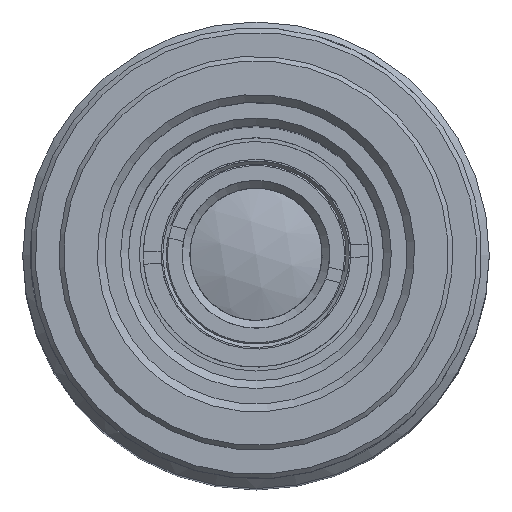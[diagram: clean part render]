
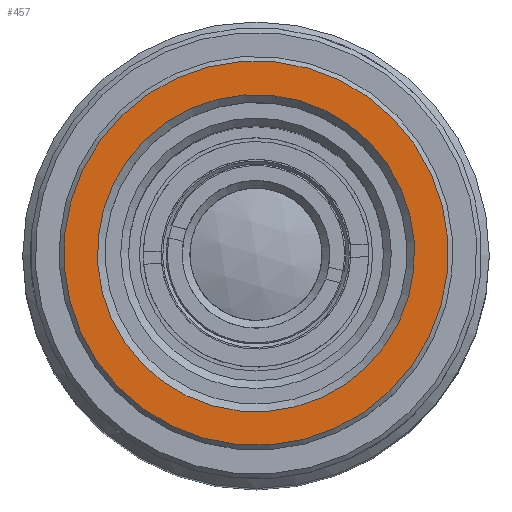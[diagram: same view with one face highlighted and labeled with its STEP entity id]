
A CAD part, top view. The second image highlights one B-rep face of the part: STEP entity #457.
In plain terms, the highlighted planar face has unit normal (0, 0, 1).
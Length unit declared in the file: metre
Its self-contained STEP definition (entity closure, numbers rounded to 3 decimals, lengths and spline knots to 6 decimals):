
#457=ADVANCED_FACE('NONE',(#1066,#1067),#1068,.F.);
#1066=FACE_BOUND('',#1956,.T.);
#1067=FACE_OUTER_BOUND('',#1957,.T.);
#1068=PLANE('',#1958);
#1956=EDGE_LOOP('',(#3215));
#1957=EDGE_LOOP('',(#3216));
#1958=AXIS2_PLACEMENT_3D('',#3217,#3218,#3219);
#3215=ORIENTED_EDGE('',*,*,#4203,.T.);
#3216=ORIENTED_EDGE('',*,*,#4204,.T.);
#3217=CARTESIAN_POINT('',(-0.002673,0.015533,0.0915));
#3218=DIRECTION('',(0.,0.,-1.0));
#3219=DIRECTION('',(-1.0,0.0,0.));
#4203=EDGE_CURVE('NONE',#4877,#4877,#4878,.T.);
#4204=EDGE_CURVE('NONE',#4879,#4879,#4880,.T.);
#4877=VERTEX_POINT('',#6017);
#4878=CIRCLE('',#6018,0.0102);
#4879=VERTEX_POINT('',#6019);
#4880=CIRCLE('',#6020,0.01236);
#6017=CARTESIAN_POINT('',(-0.003986,-0.000672,0.0915));
#6018=AXIS2_PLACEMENT_3D('',#6794,#6795,#6796);
#6019=CARTESIAN_POINT('',(-0.005772,-0.001887,0.0915));
#6020=AXIS2_PLACEMENT_3D('',#6797,#6798,#6799);
#6794=CARTESIAN_POINT('',(0.004447,0.005065,0.0915));
#6795=DIRECTION('',(0.,0.,-1.0));
#6796=DIRECTION('',(-0.827,-0.562,0.));
#6797=CARTESIAN_POINT('',(0.004447,0.005065,0.0915));
#6798=DIRECTION('',(0.,0.,1.0));
#6799=DIRECTION('',(-0.827,-0.562,0.));
